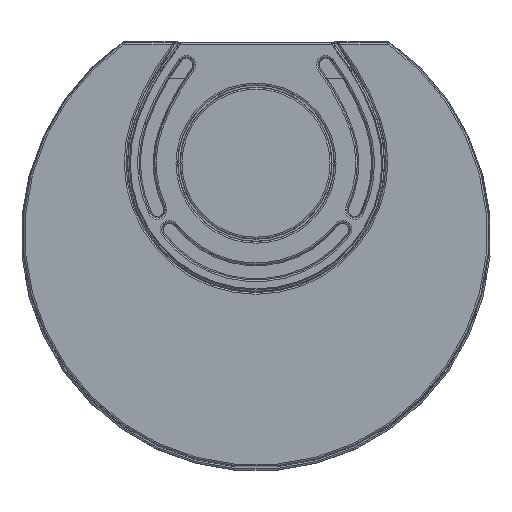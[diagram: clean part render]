
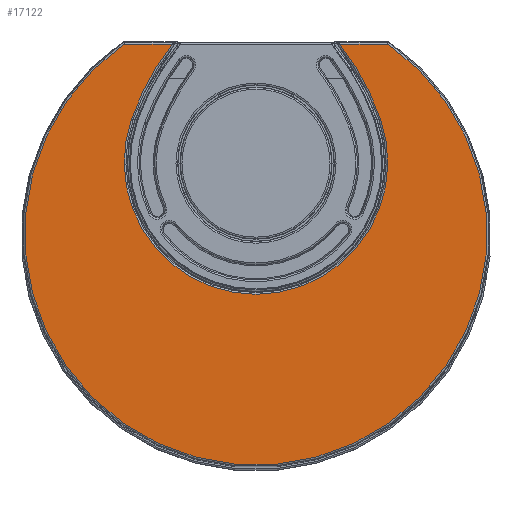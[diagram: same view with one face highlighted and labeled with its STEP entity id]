
A CAD part, top view. The second image highlights one B-rep face of the part: STEP entity #17122.
In plain terms, the highlighted planar face has unit normal (0, 0, 1).
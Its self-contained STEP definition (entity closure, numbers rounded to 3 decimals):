
#1738=CIRCLE('',#18385,152.766);
#1739=CIRCLE('',#18386,302.766);
#1740=CIRCLE('',#18387,2.022);
#1741=CIRCLE('',#18388,267.986);
#1742=CIRCLE('',#18389,2.022);
#1743=CIRCLE('',#18390,302.766);
#2568=ORIENTED_EDGE('',*,*,#7988,.T.);
#2569=ORIENTED_EDGE('',*,*,#7989,.T.);
#2570=ORIENTED_EDGE('',*,*,#7990,.T.);
#2571=ORIENTED_EDGE('',*,*,#7991,.T.);
#2572=ORIENTED_EDGE('',*,*,#7992,.T.);
#2573=ORIENTED_EDGE('',*,*,#7993,.T.);
#2574=ORIENTED_EDGE('',*,*,#7994,.T.);
#2575=ORIENTED_EDGE('',*,*,#7995,.T.);
#7988=EDGE_CURVE('',#10696,#10697,#1738,.F.);
#7989=EDGE_CURVE('',#10697,#10698,#1739,.F.);
#7990=EDGE_CURVE('',#10698,#10699,#12429,.F.);
#7991=EDGE_CURVE('',#10699,#10700,#1740,.T.);
#7992=EDGE_CURVE('',#10700,#10701,#1741,.T.);
#7993=EDGE_CURVE('',#10701,#10702,#1742,.T.);
#7994=EDGE_CURVE('',#10702,#10703,#12430,.F.);
#7995=EDGE_CURVE('',#10703,#10696,#1743,.F.);
#10696=VERTEX_POINT('',#24191);
#10697=VERTEX_POINT('',#24192);
#10698=VERTEX_POINT('',#24194);
#10699=VERTEX_POINT('',#24196);
#10700=VERTEX_POINT('',#24198);
#10701=VERTEX_POINT('',#24200);
#10702=VERTEX_POINT('',#24202);
#10703=VERTEX_POINT('',#24204);
#12429=LINE('',#24195,#13355);
#12430=LINE('',#24203,#13356);
#13355=VECTOR('',#20033,1000.);
#13356=VECTOR('',#20040,1000.);
#14274=EDGE_LOOP('',(#2568,#2569,#2570,#2571,#2572,#2573,#2574,#2575));
#15475=FACE_BOUND('',#14274,.T.);
#16673=PLANE('',#18384);
#17122=ADVANCED_FACE('',(#15475),#16673,.T.);
#18384=AXIS2_PLACEMENT_3D('',#24189,#20027,#20028);
#18385=AXIS2_PLACEMENT_3D('',#24190,#20029,#20030);
#18386=AXIS2_PLACEMENT_3D('',#24193,#20031,#20032);
#18387=AXIS2_PLACEMENT_3D('',#24197,#20034,#20035);
#18388=AXIS2_PLACEMENT_3D('',#24199,#20036,#20037);
#18389=AXIS2_PLACEMENT_3D('',#24201,#20038,#20039);
#18390=AXIS2_PLACEMENT_3D('',#24205,#20041,#20042);
#20027=DIRECTION('',(0.,0.,1.));
#20028=DIRECTION('',(1.,0.,0.));
#20029=DIRECTION('',(0.,0.,1.));
#20030=DIRECTION('',(1.,0.,0.));
#20031=DIRECTION('',(0.,0.,1.));
#20032=DIRECTION('',(1.,0.,0.));
#20033=DIRECTION('',(1.,0.,0.));
#20034=DIRECTION('',(0.,0.,1.));
#20035=DIRECTION('',(1.,0.,0.));
#20036=DIRECTION('',(0.,0.,1.));
#20037=DIRECTION('',(1.,0.,0.));
#20038=DIRECTION('',(0.,0.,1.));
#20039=DIRECTION('',(1.,0.,0.));
#20040=DIRECTION('',(1.,0.,0.));
#20041=DIRECTION('',(0.,0.,1.));
#20042=DIRECTION('',(1.,0.,0.));
#24189=CARTESIAN_POINT('',(152.409,-103.336,1258.));
#24190=CARTESIAN_POINT('',(0.,-238.5,1258.));
#24191=CARTESIAN_POINT('',(144.356,-188.513,1258.));
#24192=CARTESIAN_POINT('',(-144.356,-188.513,1258.));
#24193=CARTESIAN_POINT('',(141.743,-287.582,1258.));
#24194=CARTESIAN_POINT('',(-96.945,-101.314,1258.));
#24195=CARTESIAN_POINT('',(-152.409,-101.314,1258.));
#24196=CARTESIAN_POINT('',(-152.409,-101.314,1258.));
#24197=CARTESIAN_POINT('',(-152.409,-103.336,1258.));
#24198=CARTESIAN_POINT('',(-153.568,-101.679,1258.));
#24199=CARTESIAN_POINT('',(0.,-321.3,1258.));
#24200=CARTESIAN_POINT('',(153.568,-101.679,1258.));
#24201=CARTESIAN_POINT('',(152.409,-103.336,1258.));
#24202=CARTESIAN_POINT('',(152.41,-101.314,1258.));
#24203=CARTESIAN_POINT('',(92.866,-101.314,1258.));
#24204=CARTESIAN_POINT('',(96.945,-101.314,1258.));
#24205=CARTESIAN_POINT('',(-141.743,-287.582,1258.));
